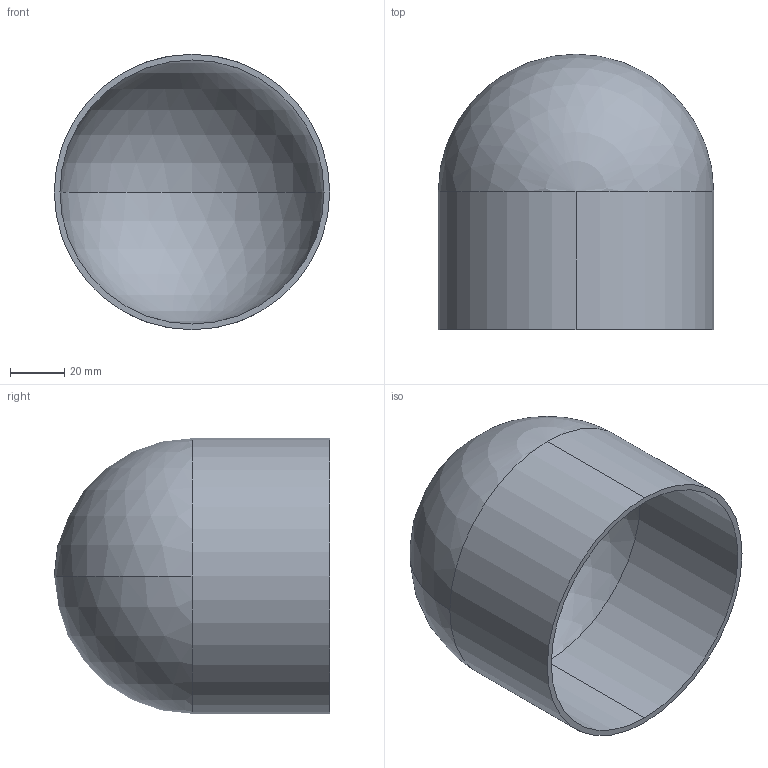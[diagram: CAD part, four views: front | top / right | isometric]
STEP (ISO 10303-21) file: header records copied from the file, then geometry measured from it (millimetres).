
FILE_DESCRIPTION (( 'STEP AP214' ), '1' );
FILE_NAME ('TE16W6L4.0-...STEP', '2016-06-01T14:13:43', ( 'eran' ), ( '' ), 'SwSTEP 2.0', 'SolidWorks 2016', '' );
FILE_SCHEMA (( 'AUTOMOTIVE_DESIGN' ));
Length unit declared in the file: millimetre
Products named in the file (1): TE16W6L4.0-..
Bounding box: 101.6 x 101.6 x 101.6 mm (x, y, z)
Volume: 66313.9 mm3; surface area: 63525.6 mm2
Topology: 1 solids, 1 shells, 9 faces, 24 edges, 14 vertices
Faces by surface type: cylinder 4, sphere 4, plane 1
Entity records: 300 total; most frequent: DIRECTION 56, CARTESIAN_POINT 44, ORIENTED_EDGE 40, AXIS2_PLACEMENT_3D 26, EDGE_CURVE 20, CIRCLE 16, VERTEX_POINT 14, EDGE_LOOP 10
